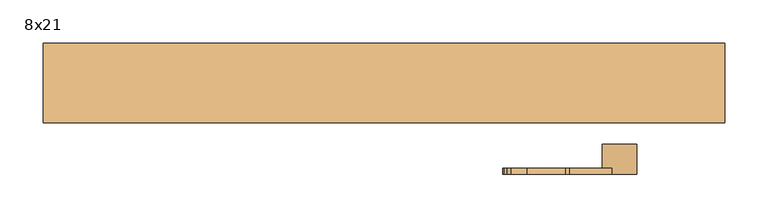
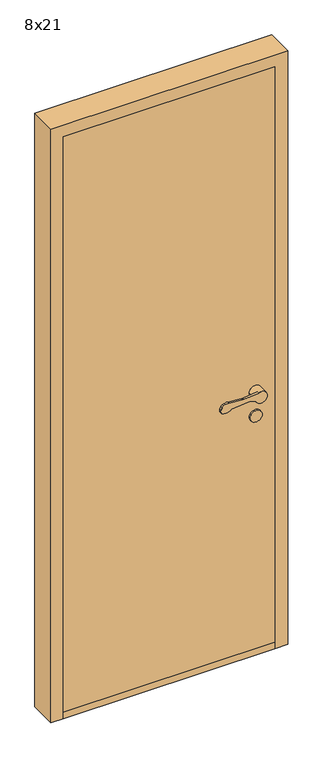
"""IFC4 building model written with IfcOpenShell, lengths in millimetres: door geometry, Innerdør Slett (Diplomat) : 8x21."""

from ifc_helpers import new_model, si_unit, point, frame, frame_2d, origin, origin_with_axes, place, context, project, spatial, polyline, circle_curve, trimmed, segment, composite_curve, outline, extrude, source, transform, mapped, element, save
from ifc_brep_helpers import plane_surface, cylinder_surface, revolved_surface, advanced_brep


def door_8x21_7557395c(model_context):
    return source(origin(), model_context, "Body", "SolidModel", [
        advanced_brep(
        [(293.9611305, 45.0, 949.1175955), (288.8520664, 45.0, 949.9496913), (226.0476109, 45.0, 943.6260011), (196.721536, 45.0, 938.7393398), (191.8691983, 45.0, 951.8913379), (195.505009, 45.0, 959.9624074), (200.3175669, 45.0, 964.8810513), (218.8963175, 45.0, 967.2639242), (263.6202158, 45.0, 964.1804415), (268.6891233, 45.0, 964.26032), (317.2687793, 45.0, 969.1517356), (346.379633, 45.0, 951.3474568), (308.3841161, 45.0, 942.6204086), (268.6891233, 37.8915284, 964.26032), (263.6202158, 37.8915284, 964.1804415), (218.8963175, 37.8915284, 967.2639242), (200.3175669, 37.8915284, 964.8810513), (195.505009, 37.8915284, 959.9624074), (191.8691983, 37.8915284, 951.8913379), (196.721536, 37.8915284, 938.7393398), (226.0476109, 37.8915284, 943.6260011), (288.8520664, 37.8915284, 949.9496913), (293.9611305, 37.8915284, 949.1175955), (308.3841161, 37.8915284, 942.6204086), (306.379633, 37.8915284, 951.3474568), (317.2687793, 37.8915284, 969.1517356), (346.379633, 10.0, 951.3474568), (306.379633, 10.0, 951.3474568)],
        [
            (0, 1, circle_curve(frame((289.8538865, 45.0, 940.0), z_axis=(0.0, -1.0, 0.0), x_axis=(-0.9949691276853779, 0.0, -0.10018200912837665)), 10.0)),
            (1, 2),
            (2, 3, circle_curve(frame((207.8569644, 45.0, 962.352734), z_axis=(0.0, 1.0, 0.0), x_axis=(-0.9949691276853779, 0.0, -0.10018200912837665)), 26.1072815)),
            (3, 4, circle_curve(frame((200.9867937, 45.0, 947.7840939), z_axis=(0.0, 1.0, 0.0), x_axis=(-0.9949691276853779, 0.0, -0.10018200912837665)), 10.0)),
            (4, 5),
            (5, 6, circle_curve(frame((204.6226045, 45.0, 955.8551634), z_axis=(0.0, 1.0, 0.0), x_axis=(-0.9949691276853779, 0.0, -0.10018200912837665)), 10.0)),
            (6, 7, circle_curve(frame((213.2326797, 45.0, 937.8033877), z_axis=(0.0, 1.0, 0.0), x_axis=(-0.9949691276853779, 0.0, -0.10018200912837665)), 30.0)),
            (7, 8),
            (8, 9, circle_curve(frame((265.683663, 45.0, 994.1093938), z_axis=(0.0, -1.0, 0.0), x_axis=(-0.9949691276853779, 0.0, -0.10018200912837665)), 30.0)),
            (9, 10),
            (10, 11, circle_curve(frame((326.379633, 45.0, 951.3474568), z_axis=(0.0, 1.0, 0.0), x_axis=(-1.0, 0.0, 0.0)), 20.0)),
            (11, 12, circle_curve(frame((326.379633, 45.0, 951.3474568), z_axis=(0.0, 1.0, 0.0), x_axis=(-1.0, 0.0, 0.0)), 20.0)),
            (12, 0),
            (13, 14, circle_curve(frame((265.683663, 37.8915284, 994.1093938), z_axis=(0.0, 1.0, 0.0), x_axis=(-0.9949691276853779, 0.0, -0.10018200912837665)), 30.0)),
            (14, 15),
            (15, 16, circle_curve(frame((213.2326797, 37.8915284, 937.8033877), z_axis=(0.0, -1.0, 0.0), x_axis=(-0.9949691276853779, 0.0, -0.10018200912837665)), 30.0)),
            (16, 17, circle_curve(frame((204.6226045, 37.8915284, 955.8551634), z_axis=(0.0, -1.0, 0.0), x_axis=(-0.9949691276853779, 0.0, -0.10018200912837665)), 10.0)),
            (17, 18),
            (18, 19, circle_curve(frame((200.9867937, 37.8915284, 947.7840939), z_axis=(0.0, -1.0, 0.0), x_axis=(-0.9949691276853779, 0.0, -0.10018200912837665)), 10.0)),
            (19, 20, circle_curve(frame((207.8569644, 37.8915284, 962.352734), z_axis=(0.0, -1.0, 0.0), x_axis=(-0.9949691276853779, 0.0, -0.10018200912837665)), 26.1072815)),
            (20, 21),
            (21, 22, circle_curve(frame((289.8538865, 37.8915284, 940.0), z_axis=(0.0, 1.0, 0.0), x_axis=(-0.9949691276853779, 0.0, -0.10018200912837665)), 10.0)),
            (22, 23),
            (23, 24, circle_curve(frame((326.379633, 37.8915284, 951.3474568), z_axis=(0.0, 1.0, 0.0), x_axis=(-1.0, 0.0, 0.0)), 20.0)),
            (24, 25, circle_curve(frame((326.379633, 37.8915284, 951.3474568), z_axis=(0.0, 1.0, 0.0), x_axis=(-1.0, 0.0, 0.0)), 20.0)),
            (25, 13),
            (9, 13),
            (25, 10),
            (22, 0),
            (12, 23),
            (21, 1),
            (20, 2),
            (19, 3),
            (18, 4),
            (17, 5),
            (16, 6),
            (15, 7),
            (14, 8),
            (26, 27, circle_curve(frame((326.379633, 10.0, 951.3474568), z_axis=(0.0, -1.0, 0.0), x_axis=(-1.0, 0.0, 0.0)), 20.0)),
            (27, 26, circle_curve(frame((326.379633, 10.0, 951.3474568), z_axis=(0.0, -1.0, 0.0), x_axis=(-1.0, 0.0, 0.0)), 20.0)),
            (27, 24),
            (11, 26),
        ],
        [
            plane_surface(frame((317.6960588, 45.0, 969.1947577), z_axis=(0.0, 1.0000000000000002, 0.0), x_axis=(0.9949691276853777, 0.0, 0.10018200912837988))),
            plane_surface(frame((317.6960588, 37.8915284, 969.1947577), z_axis=(0.0, -1.0000000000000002, 0.0), x_axis=(-0.9949691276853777, 0.0, -0.10018200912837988))),
            plane_surface(frame((268.6891233, 45.0, 964.26032), z_axis=(-0.10018200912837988, 0.0, 0.9949691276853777), x_axis=(0.0, -1.0, 0.0))),
            plane_surface(frame((326.9687366, 45.0, 934.2485115), z_axis=(-0.41072439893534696, 0.0, -0.91175954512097), x_axis=(0.0, -1.0, 0.0))),
            revolved_surface(polyline([(279.9041952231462, 37.8915284, 938.9981799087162), (279.9041952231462, 45.0, 938.9981799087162)]), (289.8538865, 37.8915284, 940.0), (0.0, -1.0, 0.0)),
            plane_surface(frame((288.8520664, 45.0, 949.9496913), z_axis=(0.10018200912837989, 0.0, -0.9949691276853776), x_axis=(0.0, -1.0, 0.0))),
            cylinder_surface(frame((207.8569644, 37.8915284, 962.352734), z_axis=(0.0, 1.0, 0.0), x_axis=(-0.9949691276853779, 0.0, -0.10018200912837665)), 26.1072815),
            cylinder_surface(frame((200.9867937, 37.8915284, 947.7840939), z_axis=(0.0, 1.0, 0.0), x_axis=(-0.9949691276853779, 0.0, -0.10018200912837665)), 10.0),
            plane_surface(frame((191.8691983, 45.0, 951.8913379), z_axis=(-0.9117595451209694, 0.0, 0.41072439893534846), x_axis=(0.0, -1.0, 0.0))),
            cylinder_surface(frame((204.6226045, 37.8915284, 955.8551634), z_axis=(0.0, 1.0, 0.0), x_axis=(-0.9949691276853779, 0.0, -0.10018200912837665)), 10.0),
            cylinder_surface(frame((213.2326797, 37.8915284, 937.8033877), z_axis=(0.0, 1.0, 0.0), x_axis=(-0.9949691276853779, 0.0, -0.10018200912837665)), 30.0),
            plane_surface(frame((218.8963175, 45.0, 967.2639242), z_axis=(0.06878157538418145, 0.0, 0.9976317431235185), x_axis=(0.0, -1.0, 0.0))),
            revolved_surface(polyline([(235.8345891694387, 37.8915284, 991.1039335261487), (235.8345891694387, 45.0, 991.1039335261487)]), (265.683663, 37.8915284, 994.1093938), (0.0, -1.0, 0.0)),
            plane_surface(frame((306.379633, 10.0, 951.3474568), z_axis=(0.0, -1.0, 0.0), x_axis=(0.0, 0.0, -1.0))),
            cylinder_surface(frame((326.379633, 10.0, 951.3474568), z_axis=(0.0, 1.0, 0.0), x_axis=(-1.0, 0.0, 0.0)), 20.0),
        ],
        [
            (0, [[1, 2, 3, 4, 5, 6, 7, 8, 9, 10, 11, 12, 13]]),
            (1, [[14, 15, 16, 17, 18, 19, 20, 21, 22, 23, 24, 25, 26]]),
            (2, [[27, -26, 28, -10]]),
            (3, [[29, -13, 30, -23]]),
            (4, [[-1, -29, -22, 31]]),
            (5, [[-2, -31, -21, 32]]),
            (6, [[-3, -32, -20, 33]]),
            (7, [[-4, -33, -19, 34]]),
            (8, [[-5, -34, -18, 35]]),
            (9, [[-6, -35, -17, 36]]),
            (10, [[-7, -36, -16, 37]]),
            (11, [[-8, -37, -15, 38]]),
            (12, [[-9, -38, -14, -27]]),
            (13, [[39, 40]]),
            (14, [[-40, 41, -24, -30, -12, 42]]),
            (14, [[-39, -42, -11, -28, -25, -41]]),
        ],
    ),
        extrude(outline(composite_curve([segment(trimmed(circle_curve(frame_2d((866.3474568, 326.379633)), 20.0), [point((866.3474568, 346.379633))], [point((866.3474568, 306.379633))], False, "CARTESIAN"), True, "CONTINUOUS"), segment(trimmed(circle_curve(frame_2d((866.3474568, 326.379633)), 20.0), [point((866.3474568, 306.379633))], [point((866.3474568, 346.379633))], False, "CARTESIAN"), True, "CONTINUOUS")], self_intersect=False)), frame((0.0, 10.0, 0.0), z_axis=(0.0, 1.0, 0.0), x_axis=(0.0, 0.0, 1.0)), (0.0, 0.0, 1.0), 5.0),
        advanced_brep(
        [(293.9611305, -100.0, 949.1175955), (308.3841161, -100.0, 942.6204086), (346.379633, -100.0, 951.3474568), (317.2687793, -100.0, 969.1517356), (268.6891233, -100.0, 964.26032), (263.6202158, -100.0, 964.1804415), (218.8963175, -100.0, 967.2639242), (200.3175669, -100.0, 964.8810513), (195.505009, -100.0, 959.9624074), (191.8691983, -100.0, 951.8913379), (196.721536, -100.0, 938.7393398), (226.0476109, -100.0, 943.6260011), (288.8520664, -100.0, 949.9496913), (268.6891233, -92.8915284, 964.26032), (317.2687793, -92.8915284, 969.1517356), (306.379633, -92.8915284, 951.3474568), (308.3841161, -92.8915284, 942.6204086), (293.9611305, -92.8915284, 949.1175955), (288.8520664, -92.8915284, 949.9496913), (226.0476109, -92.8915284, 943.6260011), (196.721536, -92.8915284, 938.7393398), (191.8691983, -92.8915284, 951.8913379), (195.505009, -92.8915284, 959.9624074), (200.3175669, -92.8915284, 964.8810513), (218.8963175, -92.8915284, 967.2639242), (263.6202158, -92.8915284, 964.1804415), (346.379633, -65.0, 951.3474568), (306.379633, -65.0, 951.3474568)],
        [
            (0, 1),
            (1, 2, circle_curve(frame((326.379633, -100.0, 951.3474568), z_axis=(0.0, -1.0, 0.0), x_axis=(-1.0, 0.0, 0.0)), 20.0)),
            (2, 3, circle_curve(frame((326.379633, -100.0, 951.3474568), z_axis=(0.0, -1.0, 0.0), x_axis=(-1.0, 0.0, 0.0)), 20.0)),
            (3, 4),
            (4, 5, circle_curve(frame((265.683663, -100.0, 994.1093938), z_axis=(0.0, 1.0, 0.0), x_axis=(-0.9949691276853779, 0.0, -0.10018200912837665)), 30.0)),
            (5, 6),
            (6, 7, circle_curve(frame((213.2326797, -100.0, 937.8033877), z_axis=(0.0, -1.0, 0.0), x_axis=(-0.9949691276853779, 0.0, -0.10018200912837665)), 30.0)),
            (7, 8, circle_curve(frame((204.6226045, -100.0, 955.8551634), z_axis=(0.0, -1.0, 0.0), x_axis=(-0.9949691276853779, 0.0, -0.10018200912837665)), 10.0)),
            (8, 9),
            (9, 10, circle_curve(frame((200.9867937, -100.0, 947.7840939), z_axis=(0.0, -1.0, 0.0), x_axis=(-0.9949691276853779, 0.0, -0.10018200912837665)), 10.0)),
            (10, 11, circle_curve(frame((207.8569644, -100.0, 962.352734), z_axis=(0.0, -1.0, 0.0), x_axis=(-0.9949691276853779, 0.0, -0.10018200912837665)), 26.1072815)),
            (11, 12),
            (12, 0, circle_curve(frame((289.8538865, -100.0, 940.0), z_axis=(0.0, 1.0, 0.0), x_axis=(-0.9949691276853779, 0.0, -0.10018200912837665)), 10.0)),
            (13, 14),
            (14, 15, circle_curve(frame((326.379633, -92.8915284, 951.3474568), z_axis=(0.0, -1.0, 0.0), x_axis=(-1.0, 0.0, 0.0)), 20.0)),
            (15, 16, circle_curve(frame((326.379633, -92.8915284, 951.3474568), z_axis=(0.0, -1.0, 0.0), x_axis=(-1.0, 0.0, 0.0)), 20.0)),
            (16, 17),
            (17, 18, circle_curve(frame((289.8538865, -92.8915284, 940.0), z_axis=(0.0, -1.0, 0.0), x_axis=(-0.9949691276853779, 0.0, -0.10018200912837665)), 10.0)),
            (18, 19),
            (19, 20, circle_curve(frame((207.8569644, -92.8915284, 962.352734), z_axis=(0.0, 1.0, 0.0), x_axis=(-0.9949691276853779, 0.0, -0.10018200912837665)), 26.1072815)),
            (20, 21, circle_curve(frame((200.9867937, -92.8915284, 947.7840939), z_axis=(0.0, 1.0, 0.0), x_axis=(-0.9949691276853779, 0.0, -0.10018200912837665)), 10.0)),
            (21, 22),
            (22, 23, circle_curve(frame((204.6226045, -92.8915284, 955.8551634), z_axis=(0.0, 1.0, 0.0), x_axis=(-0.9949691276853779, 0.0, -0.10018200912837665)), 10.0)),
            (23, 24, circle_curve(frame((213.2326797, -92.8915284, 937.8033877), z_axis=(0.0, 1.0, 0.0), x_axis=(-0.9949691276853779, 0.0, -0.10018200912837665)), 30.0)),
            (24, 25),
            (25, 13, circle_curve(frame((265.683663, -92.8915284, 994.1093938), z_axis=(0.0, -1.0, 0.0), x_axis=(-0.9949691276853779, 0.0, -0.10018200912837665)), 30.0)),
            (3, 14),
            (13, 4),
            (16, 1),
            (0, 17),
            (12, 18),
            (11, 19),
            (10, 20),
            (9, 21),
            (8, 22),
            (7, 23),
            (6, 24),
            (5, 25),
            (26, 27, circle_curve(frame((326.379633, -65.0, 951.3474568), z_axis=(0.0, 1.0, 0.0), x_axis=(-1.0, 0.0, 0.0)), 20.0)),
            (27, 26, circle_curve(frame((326.379633, -65.0, 951.3474568), z_axis=(0.0, 1.0, 0.0), x_axis=(-1.0, 0.0, 0.0)), 20.0)),
            (26, 2),
            (15, 27),
        ],
        [
            plane_surface(frame((317.6960588, -100.0, 969.1947577), z_axis=(0.0, -1.0000000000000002, 0.0), x_axis=(0.9949691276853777, 0.0, 0.10018200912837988))),
            plane_surface(frame((317.6960588, -92.8915284, 969.1947577), z_axis=(0.0, 1.0000000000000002, 0.0), x_axis=(-0.9949691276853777, 0.0, -0.10018200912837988))),
            plane_surface(frame((268.6891233, -100.0, 964.26032), z_axis=(-0.10018200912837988, 0.0, 0.9949691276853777), x_axis=(0.0, 1.0, 0.0))),
            plane_surface(frame((326.9687366, -100.0, 934.2485115), z_axis=(-0.41072439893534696, 0.0, -0.91175954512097), x_axis=(0.0, 1.0, 0.0))),
            revolved_surface(polyline([(279.9041952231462, -92.8915284, 938.9981799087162), (279.9041952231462, -100.0, 938.9981799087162)]), (289.8538865, -92.8915284, 940.0), (0.0, 1.0, 0.0)),
            plane_surface(frame((288.8520664, -100.0, 949.9496913), z_axis=(0.10018200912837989, 0.0, -0.9949691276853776), x_axis=(0.0, 1.0, 0.0))),
            cylinder_surface(frame((207.8569644, -92.8915284, 962.352734), z_axis=(0.0, -1.0, 0.0), x_axis=(-0.9949691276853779, 0.0, -0.10018200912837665)), 26.1072815),
            cylinder_surface(frame((200.9867937, -92.8915284, 947.7840939), z_axis=(0.0, -1.0, 0.0), x_axis=(-0.9949691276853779, 0.0, -0.10018200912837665)), 10.0),
            plane_surface(frame((191.8691983, -100.0, 951.8913379), z_axis=(-0.9117595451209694, 0.0, 0.41072439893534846), x_axis=(0.0, 1.0, 0.0))),
            cylinder_surface(frame((204.6226045, -92.8915284, 955.8551634), z_axis=(0.0, -1.0, 0.0), x_axis=(-0.9949691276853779, 0.0, -0.10018200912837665)), 10.0),
            cylinder_surface(frame((213.2326797, -92.8915284, 937.8033877), z_axis=(0.0, -1.0, 0.0), x_axis=(-0.9949691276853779, 0.0, -0.10018200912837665)), 30.0),
            plane_surface(frame((218.8963175, -100.0, 967.2639242), z_axis=(0.06878157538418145, 0.0, 0.9976317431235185), x_axis=(0.0, 1.0, 0.0))),
            revolved_surface(polyline([(235.8345891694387, -92.8915284, 991.1039335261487), (235.8345891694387, -100.0, 991.1039335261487)]), (265.683663, -92.8915284, 994.1093938), (0.0, 1.0, 0.0)),
            plane_surface(frame((306.379633, -65.0, 951.3474568), z_axis=(0.0, 1.0, 0.0), x_axis=(0.0, 0.0, -1.0))),
            cylinder_surface(frame((326.379633, -65.0, 951.3474568), z_axis=(0.0, -1.0, 0.0), x_axis=(-1.0, 0.0, 0.0)), 20.0),
        ],
        [
            (0, [[1, 2, 3, 4, 5, 6, 7, 8, 9, 10, 11, 12, 13]]),
            (1, [[14, 15, 16, 17, 18, 19, 20, 21, 22, 23, 24, 25, 26]]),
            (2, [[-4, 27, -14, 28]]),
            (3, [[-17, 29, -1, 30]]),
            (4, [[31, -18, -30, -13]]),
            (5, [[32, -19, -31, -12]]),
            (6, [[33, -20, -32, -11]]),
            (7, [[34, -21, -33, -10]]),
            (8, [[35, -22, -34, -9]]),
            (9, [[36, -23, -35, -8]]),
            (10, [[37, -24, -36, -7]]),
            (11, [[38, -25, -37, -6]]),
            (12, [[-28, -26, -38, -5]]),
            (13, [[39, 40]]),
            (14, [[41, -2, -29, -16, 42, -39]]),
            (14, [[-42, -15, -27, -3, -41, -40]]),
        ],
    ),
        extrude(outline(composite_curve([segment(trimmed(circle_curve(frame_2d((866.3474568, 326.379633)), 20.0), [point((866.3474568, 346.379633))], [point((866.3474568, 306.379633))], False, "CARTESIAN"), True, "CONTINUOUS"), segment(trimmed(circle_curve(frame_2d((866.3474568, 326.379633)), 20.0), [point((866.3474568, 306.379633))], [point((866.3474568, 346.379633))], False, "CARTESIAN"), True, "CONTINUOUS")], self_intersect=False)), frame((0.0, -70.0, 0.0), z_axis=(0.0, 1.0, 0.0), x_axis=(0.0, 0.0, 1.0)), (0.0, 0.0, 1.0), 5.0),
        extrude(outline(polyline([(406.379633, 52.0), (406.379633, -40.0), (-299.620367, -40.0), (-299.620367, 52.0), (406.379633, 52.0)])), origin_with_axes(), (0.0, 0.0, 1.0), 22.0),
        extrude(outline(polyline([(406.379633, 10.0), (406.379633, -40.0), (-299.620367, -40.0), (-299.620367, 10.0), (406.379633, 10.0)])), frame((0.0, 0.0, 22.0), z_axis=(0.0, 0.0, 1.0), x_axis=(1.0, 0.0, 0.0)), (0.0, 0.0, 1.0), 2031.0),
        extrude(outline(polyline([(0.0, -299.620367), (2053.0, -299.620367), (2053.0, 406.379633), (0.0, 406.379633), (0.0, 448.379633), (2095.0, 448.379633), (2095.0, -341.620367), (0.0, -341.620367), (0.0, -299.620367)])), frame((0.0, -40.0, 0.0), z_axis=(0.0, 1.0, 0.0), x_axis=(0.0, 0.0, 1.0)), (0.0, 0.0, 1.0), 92.0),
    ])


if __name__ == "__main__":
    model = new_model("IFC4")
    model_context = context("Model", 3, world=origin())
    ifc_project = project(units=[si_unit("LENGTHUNIT", "METRE", prefix="MILLI")], contexts=[model_context])
    site = spatial("IfcSite", under=ifc_project)
    building = spatial("IfcBuilding", under=site)
    placement = place(None, origin())
    door_8x21_shape = door_8x21_7557395c(model_context)
    element("IfcDoor", 1, ObjectType="Innerdør Slett (Diplomat) : 8x21", at=placement, inside=building, context=model_context, shape_type="MappedRepresentation", body=[
        mapped(door_8x21_shape, transform((0.0, 0.0, 0.0), x_axis=(1.0, 0.0, 0.0), y_axis=(0.0, 1.0, 0.0), z_axis=(0.0, 0.0, 1.0))),
    ])
    save(model, "model.ifc")
